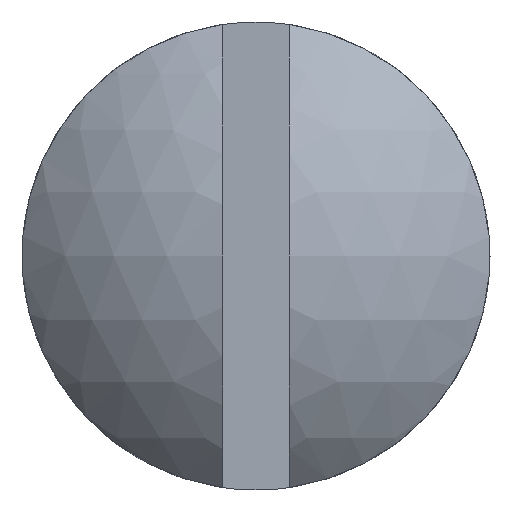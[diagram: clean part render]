
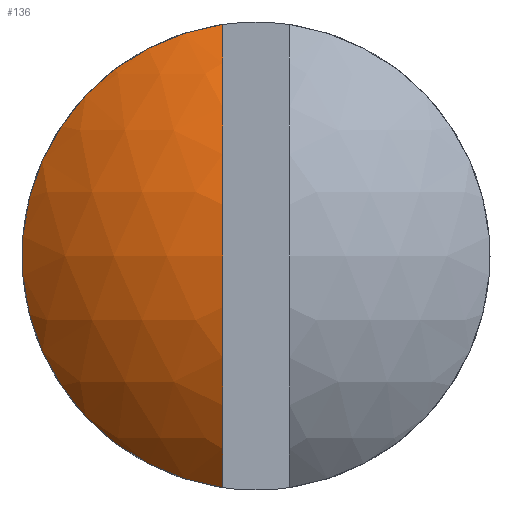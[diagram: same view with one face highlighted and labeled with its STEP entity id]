
A CAD part, left-side view. The second image highlights one B-rep face of the part: STEP entity #136.
In plain terms, the highlighted spherical face has radius 3.837 mm.
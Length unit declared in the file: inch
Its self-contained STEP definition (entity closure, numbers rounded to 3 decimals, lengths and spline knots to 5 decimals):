
#16=SPHERICAL_SURFACE('',#169,0.15104);
#31=FACE_OUTER_BOUND('',#41,.T.);
#41=EDGE_LOOP('',(#115,#116));
#61=CIRCLE('',#164,0.15023);
#65=CIRCLE('',#170,0.10938);
#74=VERTEX_POINT('',#247);
#75=VERTEX_POINT('',#248);
#86=EDGE_CURVE('',#74,#75,#61,.T.);
#91=EDGE_CURVE('',#75,#74,#65,.T.);
#115=ORIENTED_EDGE('',*,*,#86,.T.);
#116=ORIENTED_EDGE('',*,*,#91,.T.);
#136=ADVANCED_FACE('',(#31),#16,.T.);
#164=AXIS2_PLACEMENT_3D('',#249,#201,#202);
#169=AXIS2_PLACEMENT_3D('',#256,#212,#213);
#170=AXIS2_PLACEMENT_3D('',#257,#214,#215);
#201=DIRECTION('center_axis',(0.,1.,0.));
#202=DIRECTION('ref_axis',(0.,0.,-1.));
#212=DIRECTION('center_axis',(0.,0.,1.));
#213=DIRECTION('ref_axis',(1.,0.,0.));
#214=DIRECTION('center_axis',(-1.,0.,0.));
#215=DIRECTION('ref_axis',(0.,0.,1.));
#247=CARTESIAN_POINT('',(0.04687,0.01563,-0.10825));
#248=CARTESIAN_POINT('',(0.04687,0.01563,0.10825));
#249=CARTESIAN_POINT('Origin',(0.15104,0.01563,0.));
#256=CARTESIAN_POINT('Origin',(0.15104,0.,0.));
#257=CARTESIAN_POINT('Origin',(0.04687,0.,0.));
